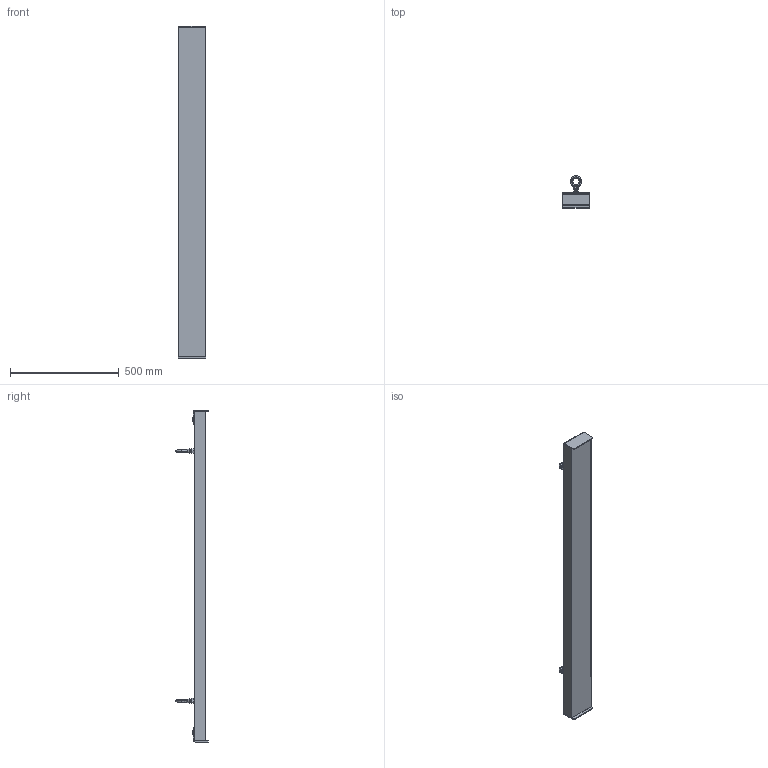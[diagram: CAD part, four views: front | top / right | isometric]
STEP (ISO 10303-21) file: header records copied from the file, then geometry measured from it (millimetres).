
FILE_DESCRIPTION (( 'STEP AP203' ), '1' );
FILE_NAME ('YS6000.STEP', '2018-08-20T19:44:01', ( '' ), ( '' ), 'SwSTEP 2.0', 'SolidWorks 2015', '' );
FILE_SCHEMA (( 'CONFIG_CONTROL_DESIGN' ));
Length unit declared in the file: inch
Products named in the file (1): YS6000
Bounding box: 127 x 147.9 x 1524.03 mm (x, y, z)
Volume: 1868725.1 mm3; surface area: 1172297.7 mm2
Topology: 13 solids, 13 shells, 3083 faces, 7840 edges, 5032 vertices
Faces by surface type: plane 1546, bspline 814, cone 460, cylinder 263
Entity records: 145233 total; most frequent: CARTESIAN_POINT 76526, ORIENTED_EDGE 15672, DIRECTION 11198, EDGE_CURVE 7836, LINE 5206, VECTOR 5206, VERTEX_POINT 5032, EDGE_LOOP 3358
